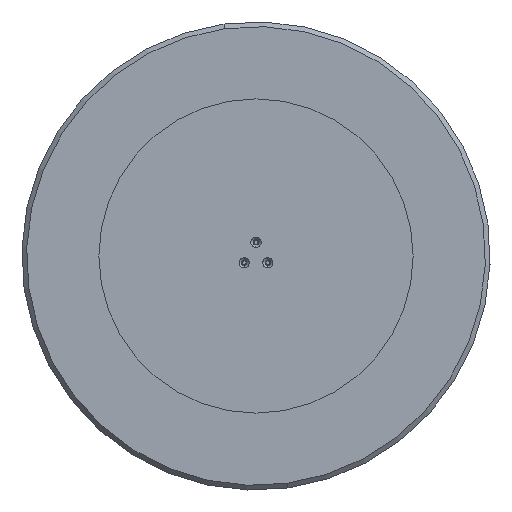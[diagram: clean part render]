
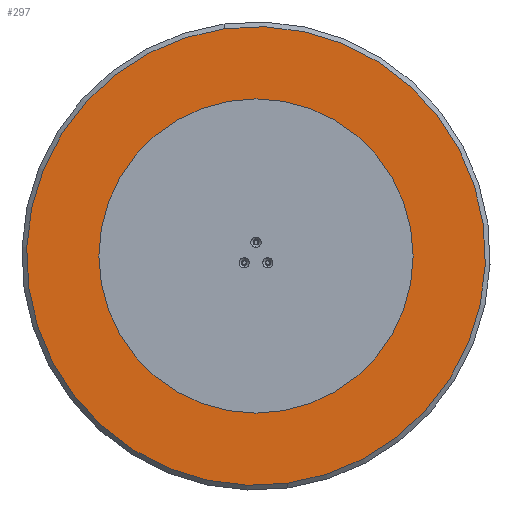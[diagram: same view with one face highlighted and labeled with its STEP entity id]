
A CAD part, front view. The second image highlights one B-rep face of the part: STEP entity #297.
In plain terms, the highlighted planar face has unit normal (0, -1, 0).
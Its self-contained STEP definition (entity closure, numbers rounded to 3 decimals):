
#2 = VERTEX_POINT ( 'NONE', #1820 ) ;
#47 = DIRECTION ( 'NONE',  ( 0., 0., -1. ) ) ;
#186 = AXIS2_PLACEMENT_3D ( 'NONE', #1708, #2688, #3641 ) ;
#297 = ADVANCED_FACE ( 'NONE', ( #2821 ), #2803, .T. ) ;
#309 = VERTEX_POINT ( 'NONE', #2194 ) ;
#873 = EDGE_LOOP ( 'NONE', ( #3460, #4004 ) ) ;
#1236 = CARTESIAN_POINT ( 'NONE',  ( 0., 0., 0. ) ) ;
#1393 = AXIS2_PLACEMENT_3D ( 'NONE', #2699, #3873, #1455 ) ;
#1455 = DIRECTION ( 'NONE',  ( 0., 0., -1. ) ) ;
#1708 = CARTESIAN_POINT ( 'NONE',  ( 0., 0., 0. ) ) ;
#1814 = AXIS2_PLACEMENT_3D ( 'NONE', #1236, #2866, #47 ) ;
#1820 = CARTESIAN_POINT ( 'NONE',  ( 0., 0., -387. ) ) ;
#2184 = EDGE_CURVE ( 'NONE', #2, #309, #2875, .T. ) ;
#2194 = CARTESIAN_POINT ( 'NONE',  ( 0., 0., 387. ) ) ;
#2688 = DIRECTION ( 'NONE',  ( 0., -1., 0. ) ) ;
#2699 = CARTESIAN_POINT ( 'NONE',  ( 0., 0., 0. ) ) ;
#2803 = PLANE ( 'NONE',  #1814 ) ;
#2821 = FACE_OUTER_BOUND ( 'NONE', #873, .T. ) ;
#2866 = DIRECTION ( 'NONE',  ( 0., -1., 0. ) ) ;
#2875 = CIRCLE ( 'NONE', #186, 387. ) ;
#3022 = CIRCLE ( 'NONE', #1393, 387. ) ;
#3460 = ORIENTED_EDGE ( 'NONE', *, *, #3624, .T. ) ;
#3624 = EDGE_CURVE ( 'NONE', #309, #2, #3022, .T. ) ;
#3641 = DIRECTION ( 'NONE',  ( 0., 0., -1. ) ) ;
#3873 = DIRECTION ( 'NONE',  ( 0., -1., 0. ) ) ;
#4004 = ORIENTED_EDGE ( 'NONE', *, *, #2184, .T. ) ;
